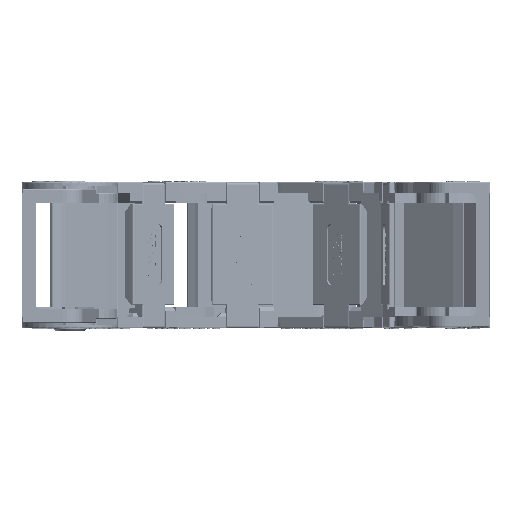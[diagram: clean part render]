
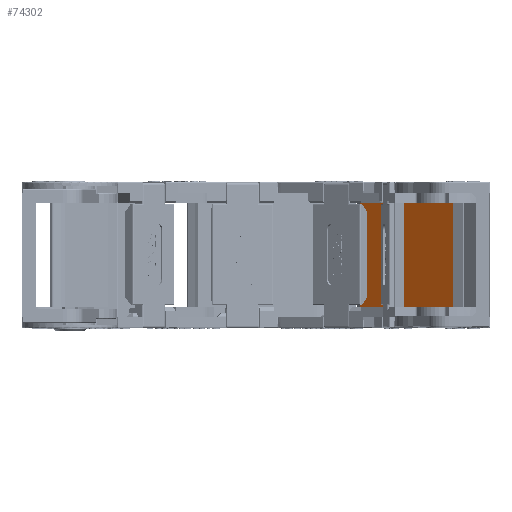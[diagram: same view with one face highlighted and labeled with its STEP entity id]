
A CAD part, left-side view. The second image highlights one B-rep face of the part: STEP entity #74302.
In plain terms, the highlighted planar face has unit normal (-0.776, 0.631, 0).
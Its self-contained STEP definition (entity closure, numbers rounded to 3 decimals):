
#7887=PLANE('',#284318);
#28846=LINE('',#492286,#54039);
#28902=LINE('',#492469,#54095);
#28913=LINE('',#492488,#54106);
#28938=LINE('',#492604,#54131);
#54039=VECTOR('',#324467,1.);
#54095=VECTOR('',#324621,1.);
#54106=VECTOR('',#324636,1.);
#54131=VECTOR('',#324765,1.);
#74302=ADVANCED_FACE('',(#89912),#7887,.T.);
#89912=FACE_OUTER_BOUND('',#105360,.T.);
#105360=EDGE_LOOP('',(#168529,#168530,#168531,#168532));
#168529=ORIENTED_EDGE('',*,*,#254831,.T.);
#168530=ORIENTED_EDGE('',*,*,#254779,.F.);
#168531=ORIENTED_EDGE('',*,*,#254692,.T.);
#168532=ORIENTED_EDGE('',*,*,#254768,.T.);
#221681=VERTEX_POINT('',#492285);
#221682=VERTEX_POINT('',#492287);
#221717=VERTEX_POINT('',#492468);
#221724=VERTEX_POINT('',#492489);
#254692=EDGE_CURVE('',#221682,#221681,#28846,.T.);
#254768=EDGE_CURVE('',#221681,#221717,#28902,.T.);
#254779=EDGE_CURVE('',#221682,#221724,#28913,.T.);
#254831=EDGE_CURVE('',#221717,#221724,#28938,.T.);
#284318=AXIS2_PLACEMENT_3D('',#492605,#324766,#324767);
#324467=DIRECTION('',(0.,0.,-1.));
#324621=DIRECTION('',(-0.631,-0.776,0.));
#324636=DIRECTION('',(-0.631,-0.776,0.));
#324765=DIRECTION('',(0.,0.,1.));
#324766=DIRECTION('',(-0.776,0.631,0.));
#324767=DIRECTION('',(-0.631,-0.776,0.));
#492285=CARTESIAN_POINT('',(65.544,-71.284,174.533));
#492286=CARTESIAN_POINT('',(65.544,-71.284,174.533));
#492287=CARTESIAN_POINT('',(65.544,-71.284,199.985));
#492468=CARTESIAN_POINT('',(47.138,-93.933,174.533));
#492469=CARTESIAN_POINT('',(65.544,-71.284,174.533));
#492488=CARTESIAN_POINT('',(65.544,-71.284,199.985));
#492489=CARTESIAN_POINT('',(47.138,-93.933,199.985));
#492604=CARTESIAN_POINT('',(47.138,-93.933,174.533));
#492605=CARTESIAN_POINT('',(65.544,-71.284,174.533));
